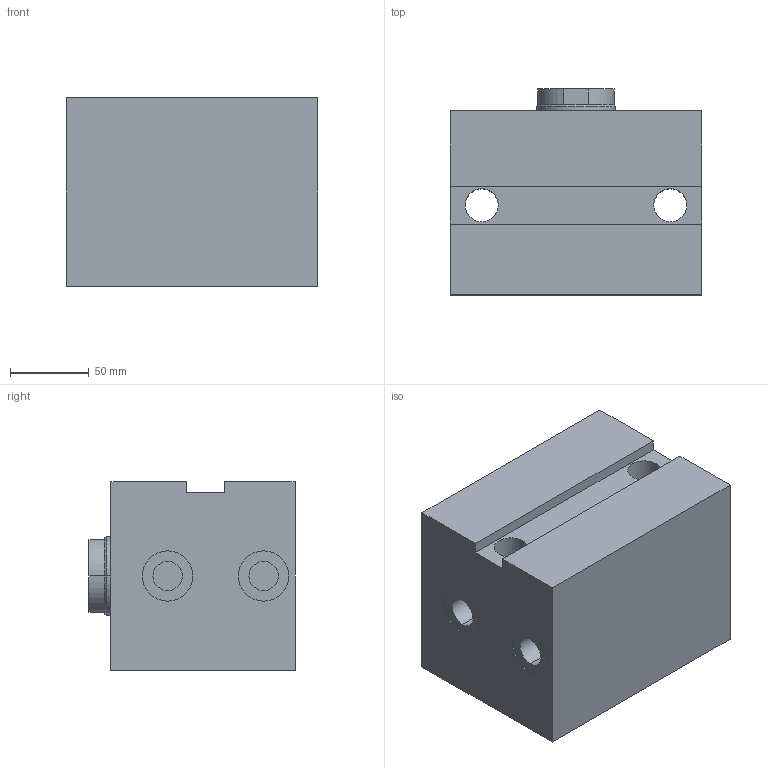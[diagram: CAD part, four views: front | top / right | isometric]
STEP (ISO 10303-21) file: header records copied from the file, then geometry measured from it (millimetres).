
FILE_DESCRIPTION (( 'STEP AP203' ), '1' );
FILE_NAME ('GERMA_Blockzylinder_602-080-032.STEP', '2015-10-09T08:51:11', ( '' ), ( '' ), 'SwSTEP 2.0', 'SolidWorks 2015', '' );
FILE_SCHEMA (( 'CONFIG_CONTROL_DESIGN' ));
Length unit declared in the file: millimetre
Products named in the file (3): GERMA_Blockzylinder_602-080-032; GH-600-080_GH-602-080-032; Kolben 60x-080_Kolben DU.80-Hub32-IG
Assembly tree (2 placements, depth 2):
  GERMA_Blockzylinder_602-080-032
    GH-600-080_GH-602-080-032
    Kolben 60x-080_Kolben DU.80-Hub32-IG
Bounding box: 160 x 131 x 120 mm (x, y, z)
Volume: 2028887.9 mm3; surface area: 184934.7 mm2
Topology: 2 solids, 2 shells, 73 faces, 160 edges, 98 vertices
Faces by surface type: cylinder 33, plane 26, cone 14
Entity records: 2286 total; most frequent: DIRECTION 387, CARTESIAN_POINT 330, ORIENTED_EDGE 308, AXIS2_PLACEMENT_3D 155, EDGE_CURVE 154, VERTEX_POINT 98, EDGE_LOOP 90, LINE 77
